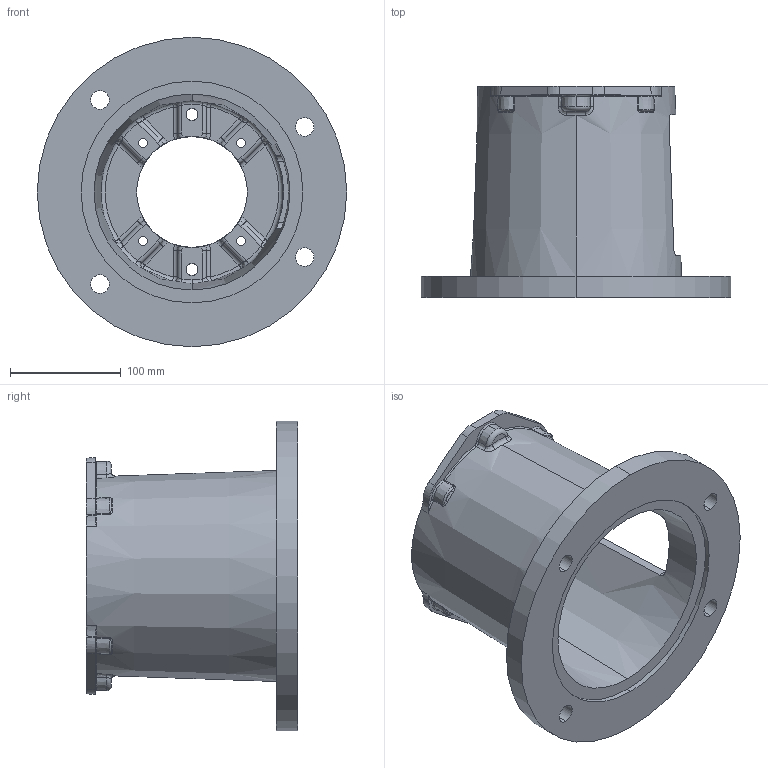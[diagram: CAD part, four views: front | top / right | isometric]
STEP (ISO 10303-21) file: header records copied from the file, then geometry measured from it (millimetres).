
FILE_DESCRIPTION (( 'STEP AP203' ), '1' );
FILE_NAME ('E78775100M.STEP', '2014-11-04T15:48:18', ( '' ), ( '' ), 'SwSTEP 2.0', 'SolidWorks 2014', '' );
FILE_SCHEMA (( 'CONFIG_CONTROL_DESIGN' ));
Length unit declared in the file: inch
Products named in the file (1): E78775100M
Bounding box: 279.4 x 190.5 x 279.4 mm (x, y, z)
Volume: 1509898 mm3; surface area: 320075.9 mm2
Topology: 1 solids, 1 shells, 354 faces, 902 edges, 540 vertices
Faces by surface type: torus 106, cylinder 86, bspline 64, plane 50, sphere 24, cone 24
Entity records: 14321 total; most frequent: CARTESIAN_POINT 6069, ORIENTED_EDGE 1780, DIRECTION 1734, EDGE_CURVE 890, AXIS2_PLACEMENT_3D 787, VERTEX_POINT 540, CIRCLE 496, EDGE_LOOP 380
